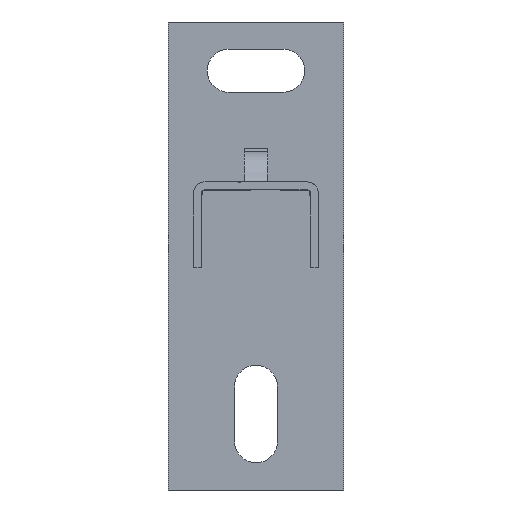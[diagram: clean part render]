
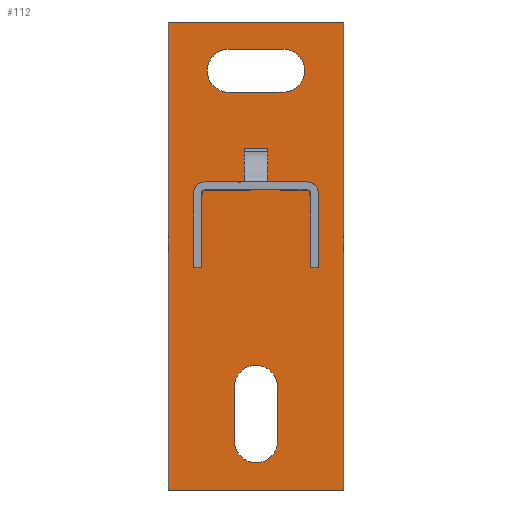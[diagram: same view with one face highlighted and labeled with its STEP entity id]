
A CAD part, front view. The second image highlights one B-rep face of the part: STEP entity #112.
In plain terms, the highlighted planar face has unit normal (0, -1, 0).
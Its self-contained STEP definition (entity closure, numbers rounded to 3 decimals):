
#80=FACE_BOUND($,#221,.T.);
#81=FACE_BOUND($,#222,.T.);
#112=ADVANCED_FACE($,(#164,#80,#81),#778,.T.);
#164=FACE_OUTER_BOUND($,#220,.T.);
#220=EDGE_LOOP($,(#392,#393,#394,#395));
#221=EDGE_LOOP($,(#396,#397));
#222=EDGE_LOOP($,(#398,#399));
#392=ORIENTED_EDGE($,*,*,#584,.T.);
#393=ORIENTED_EDGE($,*,*,#595,.T.);
#394=ORIENTED_EDGE($,*,*,#594,.T.);
#395=ORIENTED_EDGE($,*,*,#593,.T.);
#396=ORIENTED_EDGE($,*,*,#585,.T.);
#397=ORIENTED_EDGE($,*,*,#603,.T.);
#398=ORIENTED_EDGE($,*,*,#586,.T.);
#399=ORIENTED_EDGE($,*,*,#606,.T.);
#584=EDGE_CURVE($,#692,#700,#902,.T.);
#585=EDGE_CURVE($,#693,#704,#818,.T.);
#586=EDGE_CURVE($,#694,#706,#819,.T.);
#593=EDGE_CURVE($,#698,#692,#907,.T.);
#594=EDGE_CURVE($,#699,#698,#908,.T.);
#595=EDGE_CURVE($,#700,#699,#909,.T.);
#603=EDGE_CURVE($,#704,#693,#822,.T.);
#606=EDGE_CURVE($,#706,#694,#824,.T.);
#692=VERTEX_POINT($,#2001);
#693=VERTEX_POINT($,#2002);
#694=VERTEX_POINT($,#2003);
#698=VERTEX_POINT($,#2007);
#699=VERTEX_POINT($,#2008);
#700=VERTEX_POINT($,#2009);
#704=VERTEX_POINT($,#2013);
#706=VERTEX_POINT($,#2015);
#778=PLANE($,#948);
#818=(
BOUNDED_CURVE()
B_SPLINE_CURVE(2,(#1853,#1854,#1855,#1856,#1857,#1858,#1859),.UNSPECIFIED.,
.F.,.F.)
B_SPLINE_CURVE_WITH_KNOTS((3,2,2,3),(-111.115,-97.115,
-88.476,-79.836),.UNSPECIFIED.)
CURVE()
GEOMETRIC_REPRESENTATION_ITEM()
RATIONAL_B_SPLINE_CURVE((1.,1.,1.,0.707,1.,0.707,
1.))
REPRESENTATION_ITEM($)
);
#819=(
BOUNDED_CURVE()
B_SPLINE_CURVE(2,(#1860,#1861,#1862,#1863,#1864,#1865,#1866),.UNSPECIFIED.,
.F.,.F.)
B_SPLINE_CURVE_WITH_KNOTS((3,2,2,3),(-111.115,-97.115,
-88.476,-79.836),.UNSPECIFIED.)
CURVE()
GEOMETRIC_REPRESENTATION_ITEM()
RATIONAL_B_SPLINE_CURVE((1.,1.,1.,0.707,1.,0.707,
1.))
REPRESENTATION_ITEM($)
);
#822=(
BOUNDED_CURVE()
B_SPLINE_CURVE(2,(#1909,#1910,#1911,#1912,#1913,#1914,#1915),.UNSPECIFIED.,
.F.,.F.)
B_SPLINE_CURVE_WITH_KNOTS((3,2,2,3),(-79.836,-65.836,
-57.197,-48.558),.UNSPECIFIED.)
CURVE()
GEOMETRIC_REPRESENTATION_ITEM()
RATIONAL_B_SPLINE_CURVE((1.,1.,1.,0.707,1.,0.707,
1.))
REPRESENTATION_ITEM($)
);
#824=(
BOUNDED_CURVE()
B_SPLINE_CURVE(2,(#1925,#1926,#1927,#1928,#1929,#1930,#1931),.UNSPECIFIED.,
.F.,.F.)
B_SPLINE_CURVE_WITH_KNOTS((3,2,2,3),(-79.836,-65.836,
-57.197,-48.558),.UNSPECIFIED.)
CURVE()
GEOMETRIC_REPRESENTATION_ITEM()
RATIONAL_B_SPLINE_CURVE((1.,1.,1.,0.707,1.,0.707,
1.))
REPRESENTATION_ITEM($)
);
#902=B_SPLINE_CURVE_WITH_KNOTS($,1,(#1851,#1852),.UNSPECIFIED.,.F.,.F.,(2,
2),(0.,45.),.UNSPECIFIED.);
#907=B_SPLINE_CURVE_WITH_KNOTS($,1,(#1889,#1890),.UNSPECIFIED.,.F.,.F.,(2,
2),(210.,330.),.UNSPECIFIED.);
#908=B_SPLINE_CURVE_WITH_KNOTS($,1,(#1891,#1892),.UNSPECIFIED.,.F.,.F.,(2,
2),(165.,210.),.UNSPECIFIED.);
#909=B_SPLINE_CURVE_WITH_KNOTS($,1,(#1893,#1894),.UNSPECIFIED.,.F.,.F.,(2,
2),(45.,165.),.UNSPECIFIED.);
#948=AXIS2_PLACEMENT_3D($,#1939,#962,$);
#962=DIRECTION($,(0.,-1.,0.));
#1851=CARTESIAN_POINT($,(-22.5,0.,-120.));
#1852=CARTESIAN_POINT($,(22.5,0.,-120.));
#1853=CARTESIAN_POINT($,(-7.,0.,-7.));
#1854=CARTESIAN_POINT($,(0.,0.,-7.));
#1855=CARTESIAN_POINT($,(7.,0.,-7.));
#1856=CARTESIAN_POINT($,(12.5,0.,-7.));
#1857=CARTESIAN_POINT($,(12.5,0.,-12.5));
#1858=CARTESIAN_POINT($,(12.5,0.,-18.));
#1859=CARTESIAN_POINT($,(7.,0.,-18.));
#1860=CARTESIAN_POINT($,(5.5,0.,-93.5));
#1861=CARTESIAN_POINT($,(5.5,0.,-100.5));
#1862=CARTESIAN_POINT($,(5.5,0.,-107.5));
#1863=CARTESIAN_POINT($,(5.5,0.,-113.));
#1864=CARTESIAN_POINT($,(0.,0.,-113.));
#1865=CARTESIAN_POINT($,(-5.5,0.,-113.));
#1866=CARTESIAN_POINT($,(-5.5,0.,-107.5));
#1889=CARTESIAN_POINT($,(-22.5,0.,0.));
#1890=CARTESIAN_POINT($,(-22.5,0.,-120.));
#1891=CARTESIAN_POINT($,(22.5,0.,0.));
#1892=CARTESIAN_POINT($,(-22.5,0.,0.));
#1893=CARTESIAN_POINT($,(22.5,0.,-120.));
#1894=CARTESIAN_POINT($,(22.5,0.,0.));
#1909=CARTESIAN_POINT($,(7.,0.,-18.));
#1910=CARTESIAN_POINT($,(0.,0.,-18.));
#1911=CARTESIAN_POINT($,(-7.,0.,-18.));
#1912=CARTESIAN_POINT($,(-12.5,0.,-18.));
#1913=CARTESIAN_POINT($,(-12.5,0.,-12.5));
#1914=CARTESIAN_POINT($,(-12.5,0.,-7.));
#1915=CARTESIAN_POINT($,(-7.,0.,-7.));
#1925=CARTESIAN_POINT($,(-5.5,0.,-107.5));
#1926=CARTESIAN_POINT($,(-5.5,0.,-100.5));
#1927=CARTESIAN_POINT($,(-5.5,0.,-93.5));
#1928=CARTESIAN_POINT($,(-5.5,0.,-88.));
#1929=CARTESIAN_POINT($,(0.,0.,-88.));
#1930=CARTESIAN_POINT($,(5.5,0.,-88.));
#1931=CARTESIAN_POINT($,(5.5,0.,-93.5));
#1939=CARTESIAN_POINT($,(-22.5,0.,-120.));
#2001=CARTESIAN_POINT($,(-22.5,0.,-120.));
#2002=CARTESIAN_POINT($,(-7.,0.,-7.));
#2003=CARTESIAN_POINT($,(5.5,0.,-93.5));
#2007=CARTESIAN_POINT($,(-22.5,0.,0.));
#2008=CARTESIAN_POINT($,(22.5,0.,0.));
#2009=CARTESIAN_POINT($,(22.5,0.,-120.));
#2013=CARTESIAN_POINT($,(7.,0.,-18.));
#2015=CARTESIAN_POINT($,(-5.5,0.,-107.5));
